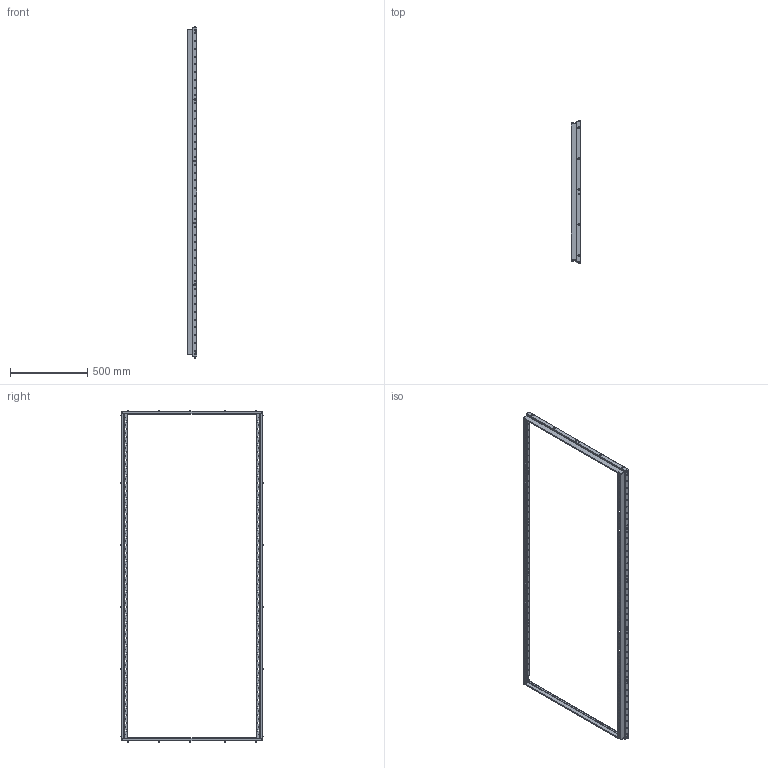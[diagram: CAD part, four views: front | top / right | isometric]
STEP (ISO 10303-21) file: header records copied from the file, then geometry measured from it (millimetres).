
FILE_DESCRIPTION (( 'STEP AP214' ), '1' );
FILE_NAME ('FO-00-UVF-220-100 Ðàìà äëÿ ïëàñòðîíîâ 2200õ1000.STEP', '2025-09-25T13:49:06', ( '' ), ( '' ), 'SwSTEP 2.0', 'SolidWorks 2023', '' );
FILE_SCHEMA (( 'AUTOMOTIVE_DESIGN' ));
Length unit declared in the file: millimetre
Products named in the file (1): FO-00-UVF-220-100 Рама для пластронов 2200х1000
Bounding box: 60.8 x 925 x 2146 mm (x, y, z)
Volume: 911525.4 mm3; surface area: 1101019.7 mm2
Topology: 1 solids, 1 shells, 2579 faces, 6453 edges, 4072 vertices
Faces by surface type: cylinder 1269, plane 1218, sphere 36, cone 36, torus 20
Entity records: 79775 total; most frequent: CARTESIAN_POINT 16810, ORIENTED_EDGE 12906, DIRECTION 12730, EDGE_CURVE 6453, VECTOR 4430, LINE 4430, AXIS2_PLACEMENT_3D 4150, VERTEX_POINT 4072
